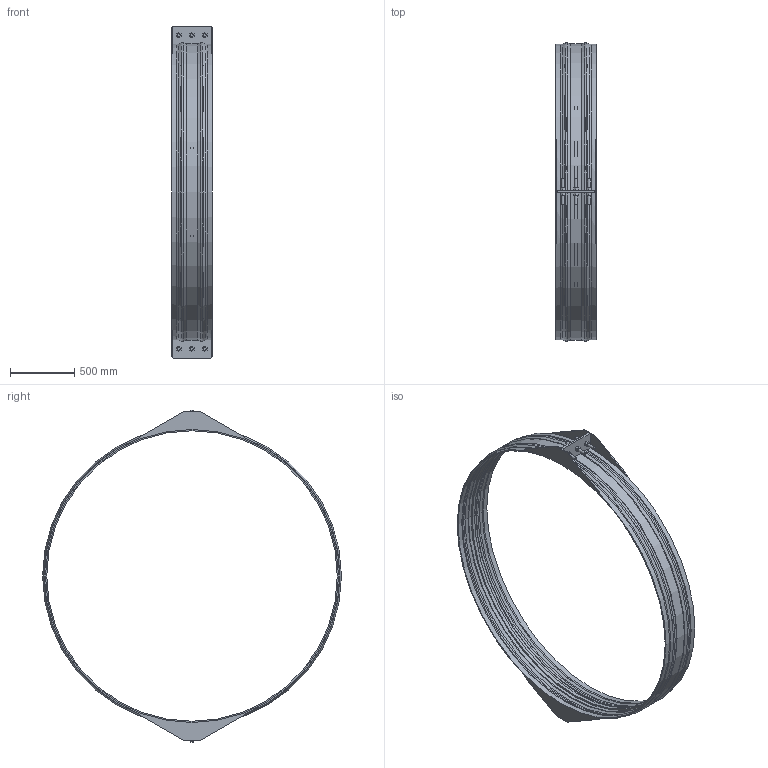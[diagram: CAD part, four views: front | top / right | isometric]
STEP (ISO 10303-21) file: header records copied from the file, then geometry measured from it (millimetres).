
FILE_DESCRIPTION(/* description */ ('VIC RESTRAINED COUPLING STYLE 233 (FLEX) (BRD)','CAx-IF Rec.Pracs.---Representation and Presentation of Product Manufacturing Information (PMI)---4.0---2014-10-13'),/* implementation_level */ '2;1');
FILE_NAME(/* name */ 'C:\Users\Vjadhav\Desktop\CAD for Inventor\Test for STEP\Vivek\Adsk_Inventor_Bolted Sleeve_iParts\STEP\Victaulic_VBSP_Coupling Flexible Restrained_Style 233 (BRD)\Victaulic_VBSP_Coupling Flexible Restrained_Style 233 (BRD)_100psi_90 (2250).stp',/* time_stamp */ '2020-09-24T12:31:28+05:00',/* author */ ('Vjadhav'),/* organization */ ('Victaulic'),/* preprocessor_version */ 'ST-DEVELOPER v17.2',/* originating_system */ 'Autodesk Inventor 2019',/* authorisation */ '');
FILE_SCHEMA (('AP242_MANAGED_MODEL_BASED_3D_ENGINEERING_MIM_LF { 1 0 10303 442 1 1 4 }'));
Length unit declared in the file: inch
Products named in the file (1): Style_233_Type_2_100psi-90.0
Bounding box: 317.5 x 2331.74 x 2590.8 mm (x, y, z)
Volume: 28301908.8 mm3; surface area: 5763608.6 mm2
Topology: 1 solids, 1 shells, 211 faces, 557 edges, 374 vertices
Faces by surface type: plane 142, cylinder 39, torus 18, cone 12
Full cylindrical faces by diameter (mm): 22.225 x12, 2266.95 x1, 2286 x2, 2292.35 x2
Entity records: 7048 total; most frequent: CARTESIAN_POINT 1352, DIRECTION 1127, ORIENTED_EDGE 1114, EDGE_CURVE 557, LINE 389, VECTOR 389, VERTEX_POINT 374, AXIS2_PLACEMENT_3D 369
